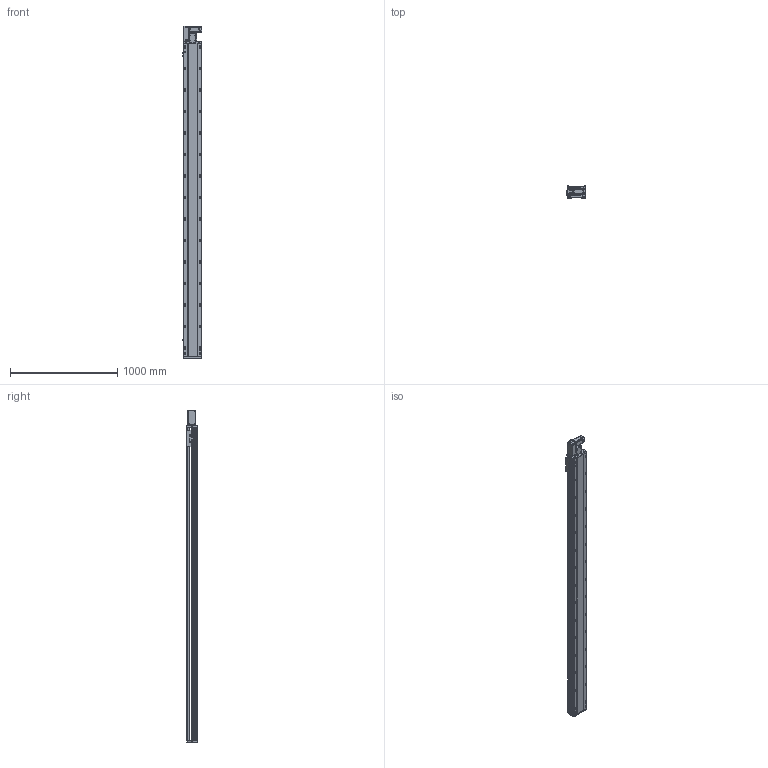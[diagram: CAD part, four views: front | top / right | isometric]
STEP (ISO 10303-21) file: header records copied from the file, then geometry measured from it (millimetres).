
FILE_DESCRIPTION (( 'STEP AP214' ), '1' );
FILE_NAME ('RTB17S-XX-2650-L-M40-C4.STEP', '2025-12-11T05:57:33', ( '' ), ( '' ), 'SwSTEP 2.0', 'SolidWorks 2018', '' );
FILE_SCHEMA (( 'AUTOMOTIVE_DESIGN' ));
Length unit declared in the file: millimetre
Products named in the file (14): RTB17S-L-001侧面板^RTB17S-XX-XX-L-M40-C4（方程式）; 400W伺服电机^RTB17S-XX-XX-L-M40-C4（方程式）; RTB17S-L-皮带座装配-400W^RTB17S-XX-XX-L-M40-C4（方程式）; RTH13-BL-012感应片外置^RTB17S-XX-XX-L-M40-C4（方程式）; RMP17S-L-014-T20--皮带座^RTB17S-L-皮带座装配-400W_RTB17S-XX-XX-L-M40-C4（方程式）; RTB14-L-017P^RTB17S-L-皮带座装配-400W_RTB17S-XX-XX-L-M40-C4（方程式）; RTB17S-L-004丝杆螺母连接座^RTB17S-XX-XX-L-M40-C4（方程式）; RTB17S-XX-2650-L-M40-C4; RTB17S-L-007上盖^RTB17S-XX-XX-L-M40-C4（方程式）; RTB17-R-011底座^RTB17S-XX-XX-L-M40-C4（方程式）; RTB14-L-018P^RTB17S-L-皮带座装配-400W_RTB17S-XX-XX-L-M40-C4（方程式）; RTB14-L-005P--轴承塑胶压盖^RTB17S-L-皮带座装配-400W_RTB17S-XX-XX-L-M40-C4（方程式）; OMRON EE-SX672 传感器^RTB17S-XX-XX-L-M40-C4（方程式）; RTB14-L-008-M20--电机板^RTB17S-L-皮带座装配-400W_RTB17S-XX-XX-L-M40-C4（方程式）
Assembly tree (16 placements, depth 3):
  RTB17S-XX-2650-L-M40-C4
    RTB17-R-011底座^RTB17S-XX-XX-L-M40-C4（方程式）
    RTB17S-L-007上盖^RTB17S-XX-XX-L-M40-C4（方程式）
    OMRON EE-SX672 传感器^RTB17S-XX-XX-L-M40-C4（方程式）  x3
    RTB17S-L-001侧面板^RTB17S-XX-XX-L-M40-C4（方程式）
    400W伺服电机^RTB17S-XX-XX-L-M40-C4（方程式）
    RTB17S-L-004丝杆螺母连接座^RTB17S-XX-XX-L-M40-C4（方程式）
    RTH13-BL-012感应片外置^RTB17S-XX-XX-L-M40-C4（方程式）
    RTB17S-L-皮带座装配-400W^RTB17S-XX-XX-L-M40-C4（方程式）
      RMP17S-L-014-T20--皮带座^RTB17S-L-皮带座装配-400W_RTB17S-XX-XX-L-M40-C4（方程式）
      RTB14-L-005P--轴承塑胶压盖^RTB17S-L-皮带座装配-400W_RTB17S-XX-XX-L-M40-C4（方程式）
      RTB14-L-008-M20--电机板^RTB17S-L-皮带座装配-400W_RTB17S-XX-XX-L-M40-C4（方程式）
      RTB14-L-017P^RTB17S-L-皮带座装配-400W_RTB17S-XX-XX-L-M40-C4（方程式）  x2
      RTB14-L-018P^RTB17S-L-皮带座装配-400W_RTB17S-XX-XX-L-M40-C4（方程式）
Bounding box: 186 x 108 x 3091 mm (x, y, z)
Volume: 25824716.2 mm3; surface area: 2967194.2 mm2
Topology: 15 solids, 15 shells, 2349 faces, 6573 edges, 4293 vertices
Faces by surface type: plane 1086, cylinder 815, bspline 301, cone 139, torus 8
Entity records: 69545 total; most frequent: CARTESIAN_POINT 19778, ORIENTED_EDGE 9990, DIRECTION 9206, EDGE_CURVE 4995, VERTEX_POINT 3281, AXIS2_PLACEMENT_3D 3211, VECTOR 2784, LINE 2784
